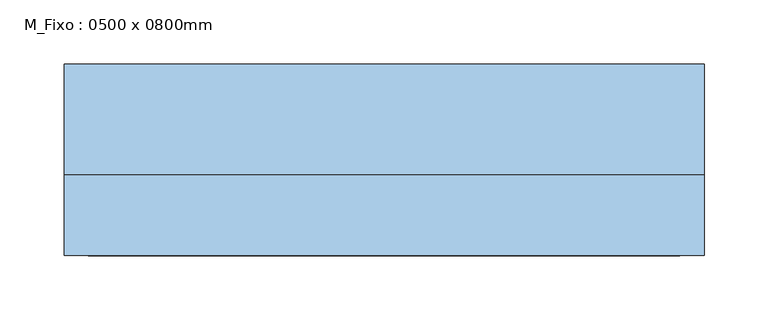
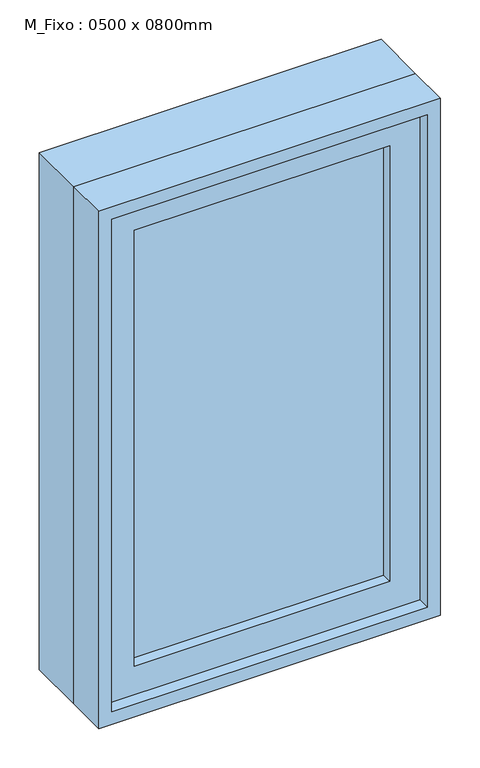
"""IFC4 building model written with IfcOpenShell, lengths in millimetres: window geometry, M_Fixo : 0500 x 0800mm."""

import ifcopenshell
import ifcopenshell.guid

model = None  # the IFC model being written
_history = None  # IfcOwnerHistory: only IFC2X3 demands one
_inside = {}  # id of a spatial element -> (the spatial element, [elements in it])
_under = {}  # id of a project, library or spatial element -> (it, [spatial elements below it])
_declared = {}  # id of a project -> (the project, [libraries it declares])
_typed = {}  # id of a type object -> (the type object, [elements of that type])
_made_of = {}  # id of a material, layer set ... -> (it, [elements and type objects made of it])


def new_model(schema):
    """Start an empty IFC model of exactly this schema.

    Asked for "IFC4X3", IfcOpenShell would pick the latest addendum, in which some entities
    have other attributes; the version numbers below select the first issue.
    IFC2X3 requires an IfcOwnerHistory on every rooted entity: one is made here for all.
    """
    global model, _history
    if schema == "IFC4X3":
        model = ifcopenshell.file(schema_version=(4, 3, 0, 0))
    else:
        model = ifcopenshell.file(schema=schema)
    _inside.clear()
    _under.clear()
    _declared.clear()
    _typed.clear()
    _made_of.clear()
    _history = None
    if model.schema == "IFC2X3":
        org = make("IfcOrganization", Name="unknown")
        user = make(
            "IfcPersonAndOrganization",
            ThePerson=make("IfcPerson", FamilyName="unknown"),
            TheOrganization=org,
        )
        app = make(
            "IfcApplication",
            ApplicationDeveloper=org,
            Version="unknown",
            ApplicationFullName="unknown",
            ApplicationIdentifier="unknown",
        )
        _history = make(
            "IfcOwnerHistory",
            OwningUser=user,
            OwningApplication=app,
            ChangeAction="ADDED",
            CreationDate=0,
        )
    return model


def make(cls, **values):
    """One entity of the class cls with the attributes given. An attribute that is None is left unset."""
    return model.create_entity(
        cls, **{name: value for name, value in values.items() if value is not None}
    )


def rooted(cls, **values):
    """An entity with a GlobalId (a new one), such as an element, a storey or a relation."""
    return make(cls, GlobalId=ifcopenshell.guid.new(), OwnerHistory=_history, **values)


def si_unit(unit_type, name, prefix=None):
    """IfcSIUnit, for example si_unit("LENGTHUNIT", "METRE", prefix="MILLI")."""
    return make("IfcSIUnit", UnitType=unit_type, Prefix=prefix, Name=name)


def assignment(units):
    """IfcUnitAssignment: the units of a project."""
    return None if units is None else make("IfcUnitAssignment", Units=units)


def point(xyz):
    """IfcCartesianPoint."""
    return None if xyz is None else make("IfcCartesianPoint", Coordinates=xyz)


def direction(xyz):
    """IfcDirection."""
    return None if xyz is None else make("IfcDirection", DirectionRatios=xyz)


def frame(location, z_axis=None, x_axis=None):
    """IfcAxis2Placement3D, a coordinate frame: its origin and axes. An axis left out is left unset."""
    return make(
        "IfcAxis2Placement3D",
        Location=point(location),
        Axis=direction(z_axis),
        RefDirection=direction(x_axis),
    )


def origin():
    """The frame at (0, 0, 0) with its axes left unset."""
    return frame((0.0, 0.0, 0.0))


def place(relative_to, where):
    """IfcLocalPlacement: puts the frame where relative to a parent placement (None: the world)."""
    return make(
        "IfcLocalPlacement", PlacementRelTo=relative_to, RelativePlacement=where
    )


def context(
    kind, dimensions, precision=None, world=None, true_north=None, identifier=None
):
    """IfcGeometricRepresentationContext, for example the 3D "Model" context."""
    return make(
        "IfcGeometricRepresentationContext",
        ContextIdentifier=identifier,
        ContextType=kind,
        CoordinateSpaceDimension=dimensions,
        Precision=precision,
        WorldCoordinateSystem=world,
        TrueNorth=true_north,
    )


def project(units=None, contexts=None):
    """IfcProject with its units and contexts."""
    return rooted(
        "IfcProject",
        Name="project",
        RepresentationContexts=contexts,
        UnitsInContext=assignment(units),
    )


def spatial(cls, under=None, at=None, **own):
    """A site, building, storey or space (cls), placed at a placement, below another one or the project."""
    s = rooted(cls, ObjectPlacement=at, **own)
    if under is not None:
        _under.setdefault(under.id(), (under, []))[1].append(s)
    return s


def polyline(points):
    """IfcPolyline through the points."""
    return make("IfcPolyline", Points=[point(p) for p in points])


def outline(outer, holes=None, kind="AREA"):
    """IfcArbitraryClosedProfileDef: a profile drawn as a closed curve; with holes, ...WithVoids."""
    if holes is None:
        return make("IfcArbitraryClosedProfileDef", ProfileType=kind, OuterCurve=outer)
    return make(
        "IfcArbitraryProfileDefWithVoids",
        ProfileType=kind,
        OuterCurve=outer,
        InnerCurves=holes,
    )


def extrude(swept, where, along, depth):
    """IfcExtrudedAreaSolid: the profile swept, set in the frame where, extruded along a direction by depth."""
    return make(
        "IfcExtrudedAreaSolid",
        SweptArea=swept,
        Position=where,
        ExtrudedDirection=direction(along),
        Depth=depth,
    )


def shape(context_of_items, identifier, shape_type, items):
    """IfcShapeRepresentation: the items that make up one representation, for example the "Body"."""
    return make(
        "IfcShapeRepresentation",
        ContextOfItems=context_of_items,
        RepresentationIdentifier=identifier,
        RepresentationType=shape_type,
        Items=items,
    )


def source(mapping_origin, context_of_items, identifier, shape_type, items):
    """IfcRepresentationMap: a shape defined once, which mapped items show again and again."""
    return make(
        "IfcRepresentationMap",
        MappingOrigin=mapping_origin,
        MappedRepresentation=shape(context_of_items, identifier, shape_type, items),
    )


def transform(
    local_origin,
    x_axis=None,
    y_axis=None,
    z_axis=None,
    scale=None,
    scale2=None,
    scale3=None,
    uniform=True,
):
    """IfcCartesianTransformationOperator3D, or its non-uniform kind. x_axis, y_axis, z_axis: its Axis1, 2, 3."""
    if uniform:
        return make(
            "IfcCartesianTransformationOperator3D",
            Axis1=direction(x_axis),
            Axis2=direction(y_axis),
            LocalOrigin=point(local_origin),
            Scale=scale,
            Axis3=direction(z_axis),
        )
    return make(
        "IfcCartesianTransformationOperator3DnonUniform",
        Axis1=direction(x_axis),
        Axis2=direction(y_axis),
        LocalOrigin=point(local_origin),
        Scale=scale,
        Axis3=direction(z_axis),
        Scale2=scale2,
        Scale3=scale3,
    )


def mapped(mapping_source, mapping_target):
    """IfcMappedItem: shows the shape of a source again, moved by a transform."""
    return make(
        "IfcMappedItem", MappingSource=mapping_source, MappingTarget=mapping_target
    )


def made_of(thing, what):
    """Note that an element or type object is made of a material, layer set ...; save() writes the relation."""
    if what is not None:
        _made_of.setdefault(what.id(), (what, []))[1].append(thing)
    return thing


def element(
    cls,
    number,
    at=None,
    inside=None,
    cuts=None,
    type_object=None,
    material=None,
    context=None,
    identifier="Body",
    shape_type=None,
    held_by="IfcProductDefinitionShape",
    body=None,
    shapes=None,
    **own,
):
    """One element of the class cls, such as IfcWall. Its Tag is "e" and its number.

    at: its placement. inside: the storey or other place that contains it. cuts: it is an
    opening in that element (IfcRelVoidsElement). A single representation is given by context,
    identifier, shape_type and body (its items); several are given by shapes. held_by: the class
    of the entity that holds the representations. save() writes the other relations.
    """
    e = rooted(cls, Tag="e%d" % number, ObjectPlacement=at, **own)
    if body is not None:
        shapes = [shape(context, identifier, shape_type, body)]
    if shapes is not None:
        e.Representation = make(held_by, Representations=shapes)
    if inside is not None:
        _inside.setdefault(inside.id(), (inside, []))[1].append(e)
    if cuts is not None:
        rooted(
            "IfcRelVoidsElement", RelatingBuildingElement=cuts, RelatedOpeningElement=e
        )
    if type_object is not None:
        _typed.setdefault(type_object.id(), (type_object, []))[1].append(e)
    return made_of(e, material)


def aggregate(whole, parts):
    """IfcRelAggregates: a whole, such as a stair, and the parts it consists of."""
    return rooted("IfcRelAggregates", RelatingObject=whole, RelatedObjects=parts)


def save(model, path):
    """Write the relations noted so far, then the file.

    IfcRelAggregates (storeys below a building ...), IfcRelContainedInSpatialStructure (elements
    in a storey), IfcRelDefinesByType, IfcRelAssociatesMaterial and IfcRelDeclares: one each for
    every whole, place, type object, material and project.
    """
    for whole, parts in _under.values():
        aggregate(whole, parts)
    for where, things in _inside.values():
        rooted(
            "IfcRelContainedInSpatialStructure",
            RelatedElements=things,
            RelatingStructure=where,
        )
    for kind, things in _typed.values():
        rooted("IfcRelDefinesByType", RelatedObjects=things, RelatingType=kind)
    for what, things in _made_of.values():
        rooted("IfcRelAssociatesMaterial", RelatedObjects=things, RelatingMaterial=what)
    for by, libraries in _declared.values():
        rooted("IfcRelDeclares", RelatingContext=by, RelatedDefinitions=libraries)
    model.write(path)


def m_fixo_0500_x_0800mm_7025a06e(model_context):
    return source(origin(), model_context, "Body", "SweptSolid", [
        extrude(outline(polyline([(-187.0, -53.0), (-187.0, -41.0), (187.0, -41.0), (187.0, -53.0), (-187.0, -53.0)])), frame((0.0, 0.0, 1663.0), z_axis=(0.0, 0.0, 1.0), x_axis=(1.0, 0.0, 0.0)), (0.0, 0.0, 1.0), 674.0),
        extrude(outline(polyline([(2381.0, -231.0), (1619.0, -231.0), (1619.0, 231.0), (2381.0, 231.0), (2381.0, -231.0)]), holes=[polyline([(2337.0, -187.0), (2337.0, 187.0), (1663.0, 187.0), (1663.0, -187.0), (2337.0, -187.0)])]), frame((0.0, -69.0, 0.0), z_axis=(0.0, 1.0, 0.0), x_axis=(0.0, 0.0, 1.0)), (0.0, 0.0, 1.0), 44.0),
        extrude(outline(polyline([(2400.0, -250.0), (1600.0, -250.0), (1600.0, 250.0), (2400.0, 250.0), (2400.0, -250.0)]), holes=[polyline([(2381.0, -231.0), (2381.0, 231.0), (1619.0, 231.0), (1619.0, -231.0), (2381.0, -231.0)])]), frame((0.0, -88.0, 0.0), z_axis=(0.0, 1.0, 0.0), x_axis=(0.0, 0.0, 1.0)), (0.0, 0.0, 1.0), 63.0),
        extrude(outline(polyline([(2400.0, -250.0), (1600.0, -250.0), (1600.0, 250.0), (2400.0, 250.0), (2400.0, -250.0)]), holes=[polyline([(2368.0, -218.0), (2368.0, 218.0), (1632.0, 218.0), (1632.0, -218.0), (2368.0, -218.0)])]), frame((0.0, -25.0, 0.0), z_axis=(0.0, 1.0, 0.0), x_axis=(0.0, 0.0, 1.0)), (0.0, 0.0, 1.0), 87.0),
    ])


if __name__ == "__main__":
    model = new_model("IFC4")
    model_context = context("Model", 3, world=origin())
    ifc_project = project(units=[si_unit("LENGTHUNIT", "METRE", prefix="MILLI")], contexts=[model_context])
    site = spatial("IfcSite", under=ifc_project)
    building = spatial("IfcBuilding", under=site)
    placement = place(None, origin())
    m_fixo_0500_x_0800mm_shape = m_fixo_0500_x_0800mm_7025a06e(model_context)
    element("IfcWindow", 1, ObjectType="M_Fixo : 0500 x 0800mm", at=placement, inside=building, context=model_context, shape_type="MappedRepresentation", body=[
        mapped(m_fixo_0500_x_0800mm_shape, transform((0.0, 0.0, 0.0), x_axis=(1.0, 0.0, 0.0), y_axis=(0.0, 1.0, 0.0), z_axis=(0.0, 0.0, 1.0))),
    ])
    save(model, "model.ifc")
